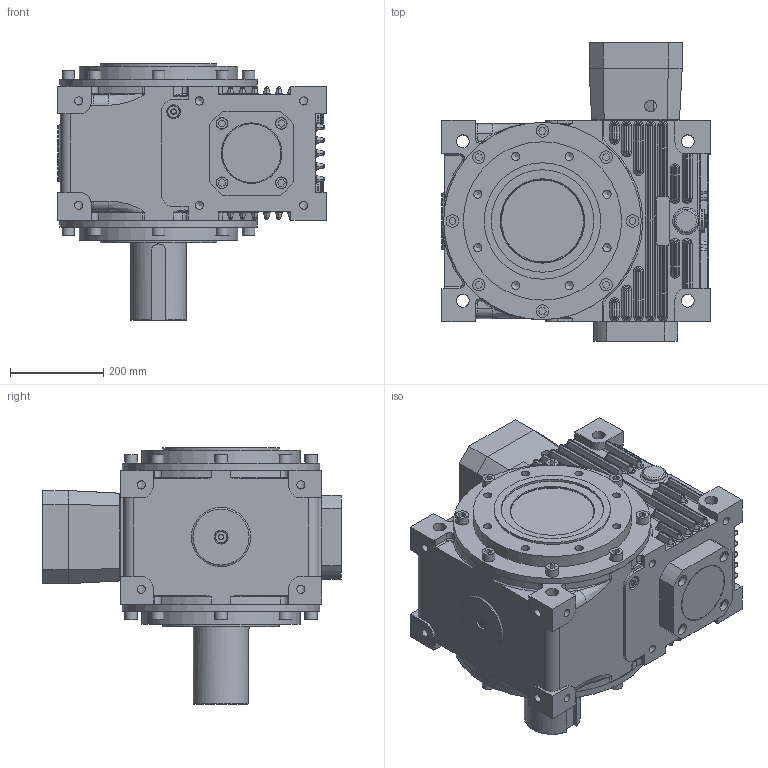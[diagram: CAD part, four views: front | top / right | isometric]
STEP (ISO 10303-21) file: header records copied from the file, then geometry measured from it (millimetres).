
FILE_DESCRIPTION( ( 'STEP AP203' ), '1' );
FILE_NAME( ' ', ' ', ( ' ' ), ( ' ' ), 'XStep 1.0', ' ', ' ' );
FILE_SCHEMA( ( 'CONFIG_CONTROL_DESIGN' ) );
Length unit declared in the file: millimetre
Products named in the file (50): 1; 2; 3; 4; 5; 6; 7; 8; 9; 10; 11; 12; 13; 14; 15; 16; 17; 18; 19; 20; 21; 22; 23; 24; 25; 26; 27; 28; 29; 30; 31; 32; 33; 34; 35; 36; 37; 38; 39; 40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
Bounding box: 576 x 641 x 551 mm (x, y, z)
Volume: 41760154.8 mm3; surface area: 3873377 mm2
Topology: 50 solids, 50 shells, 2226 faces, 5225 edges, 3221 vertices
Faces by surface type: plane 747, cylinder 736, cone 271, bspline 229, torus 216, sphere 27
Full cylindrical faces by diameter (mm): 8.5 x8, 10.25 x22, 12 x8, 13 x5, 14 x25, 15.5 x32, 16 x16, 17 x8, 17.5 x61, 18 x36, 19 x20, 20.96 x5, 24 x13, 25 x5, 26 x5, 27 x16, 28 x4, 30 x3, 32 x6, 48 x3, 51 x4, 57 x1, 60 x3, 71 x1, 72 x1, 84 x1, 85 x1, 100 x1, 110 x3, 114.3 x1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
Entity records: 110481 total; most frequent: CARTESIAN_POINT 60383, DIRECTION 10507, ORIENTED_EDGE 8866, EDGE_CURVE 4433, AXIS2_PLACEMENT_3D 4359, EDGE_LOOP 3066, VERTEX_POINT 3047, FACE_OUTER_BOUND 2627
